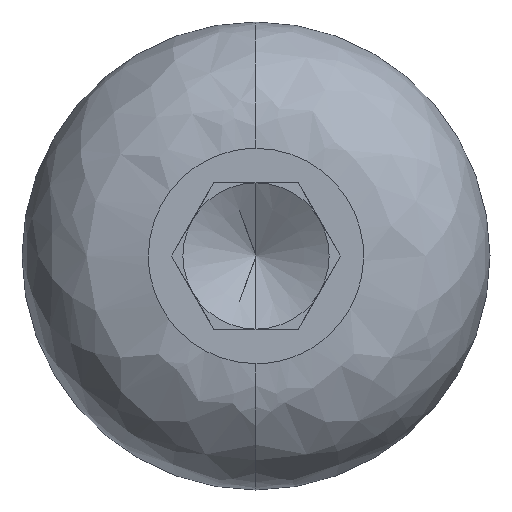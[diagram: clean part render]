
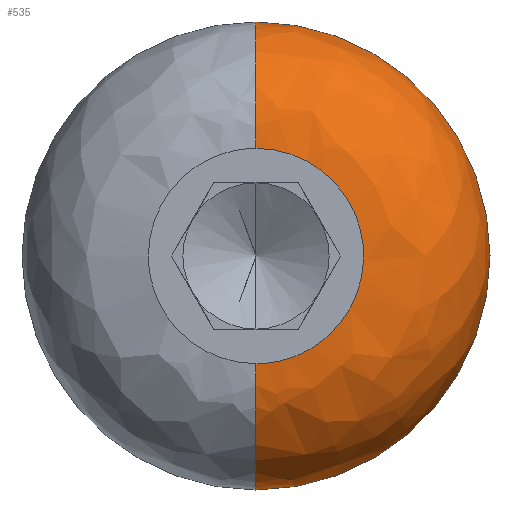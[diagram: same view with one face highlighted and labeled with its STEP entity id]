
A CAD part, left-side view. The second image highlights one B-rep face of the part: STEP entity #535.
In plain terms, the highlighted free-form (B-spline) face has degree [3, 3] with [4, 4] control points.
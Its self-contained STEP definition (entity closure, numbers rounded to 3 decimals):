
#36 = CIRCLE ( 'NONE', #135, 4.32 ) ;
#37 = CARTESIAN_POINT ( 'NONE',  ( 0., 0., -3.68 ) ) ;
#62 = CIRCLE ( 'NONE', #147, 4.32 ) ;
#81 =( BOUNDED_SURFACE ( )  B_SPLINE_SURFACE ( 3, 3, ( 
 ( #329, #355, #325, #313 ),
 ( #311, #306, #303, #301 ),
 ( #298, #290, #285, #275 ),
 ( #268, #266, #264, #260 ) ),
 .UNSPECIFIED., .F., .F., .F. ) 
 B_SPLINE_SURFACE_WITH_KNOTS ( ( 4, 4 ),
 ( 4, 4 ),
 ( 0., 1. ),
 ( 0., 1. ),
 .UNSPECIFIED. ) 
 GEOMETRIC_REPRESENTATION_ITEM ( )  RATIONAL_B_SPLINE_SURFACE ( (
 ( 1., 0.333, 0.333, 1.),
 ( 0.805, 0.268, 0.268, 0.805),
 ( 0.805, 0.268, 0.268, 0.805),
 ( 1., 0.333, 0.333, 1.) ) ) 
 REPRESENTATION_ITEM ( '' )  SURFACE ( )  );
#133 = DIRECTION ( 'NONE',  ( 1., 0., 0. ) ) ;
#135 = AXIS2_PLACEMENT_3D ( 'NONE', #241, #232, #229 ) ;
#144 = CARTESIAN_POINT ( 'NONE',  ( 0., 0., -3.68 ) ) ;
#147 = AXIS2_PLACEMENT_3D ( 'NONE', #371, #357, #364 ) ;
#149 = CARTESIAN_POINT ( 'NONE',  ( 0., 0., 3.68 ) ) ;
#152 = CARTESIAN_POINT ( 'NONE',  ( 0., -7.36, -3.68 ) ) ;
#172 = CARTESIAN_POINT ( 'NONE',  ( 0., -7.36, 3.68 ) ) ;
#183 = CIRCLE ( 'NONE', #400, 8. ) ;
#216 = CARTESIAN_POINT ( 'NONE',  ( 0., 0., 3.68 ) ) ;
#220 = ORIENTED_EDGE ( 'NONE', *, *, #574, .T. ) ;
#221 = ORIENTED_EDGE ( 'NONE', *, *, #780, .F. ) ;
#229 = DIRECTION ( 'NONE',  ( 0., 0., -1. ) ) ;
#232 = DIRECTION ( 'NONE',  ( 0., -1., 0. ) ) ;
#238 = ORIENTED_EDGE ( 'NONE', *, *, #312, .F. ) ;
#239 = EDGE_LOOP ( 'NONE', ( #220, #560, #221, #238 ) ) ;
#241 = CARTESIAN_POINT ( 'NONE',  ( 4.32, 0., -3.68 ) ) ;
#260 = CARTESIAN_POINT ( 'NONE',  ( 4.32, 0., 8. ) ) ;
#264 = CARTESIAN_POINT ( 'NONE',  ( 4.32, -16., 8. ) ) ;
#266 = CARTESIAN_POINT ( 'NONE',  ( 4.32, -16., -8. ) ) ;
#268 = CARTESIAN_POINT ( 'NONE',  ( 4.32, 0., -8. ) ) ;
#272 = VERTEX_POINT ( 'NONE', #554 ) ;
#275 = CARTESIAN_POINT ( 'NONE',  ( 1.789, 0., 8. ) ) ;
#285 = CARTESIAN_POINT ( 'NONE',  ( 1.789, -16., 8. ) ) ;
#290 = CARTESIAN_POINT ( 'NONE',  ( 1.789, -16., -8. ) ) ;
#298 = CARTESIAN_POINT ( 'NONE',  ( 1.789, 0., -8. ) ) ;
#301 = CARTESIAN_POINT ( 'NONE',  ( 0., 0., 6.211 ) ) ;
#303 = CARTESIAN_POINT ( 'NONE',  ( 0., -12.421, 6.211 ) ) ;
#306 = CARTESIAN_POINT ( 'NONE',  ( 0., -12.421, -6.211 ) ) ;
#311 = CARTESIAN_POINT ( 'NONE',  ( 0., 0., -6.211 ) ) ;
#312 = EDGE_CURVE ( 'NONE', #350, #272, #62, .T. ) ;
#313 = CARTESIAN_POINT ( 'NONE',  ( 0., 0., 3.68 ) ) ;
#325 = CARTESIAN_POINT ( 'NONE',  ( 0., -7.36, 3.68 ) ) ;
#327 = EDGE_CURVE ( 'NONE', #585, #394, #36, .T. ) ;
#329 = CARTESIAN_POINT ( 'NONE',  ( 0., 0., -3.68 ) ) ;
#350 = VERTEX_POINT ( 'NONE', #149 ) ;
#355 = CARTESIAN_POINT ( 'NONE',  ( 0., -7.36, -3.68 ) ) ;
#357 = DIRECTION ( 'NONE',  ( 0., 1., 0. ) ) ;
#364 = DIRECTION ( 'NONE',  ( 0., 0., 1. ) ) ;
#371 = CARTESIAN_POINT ( 'NONE',  ( 4.32, 0., 3.68 ) ) ;
#394 = VERTEX_POINT ( 'NONE', #761 ) ;
#400 = AXIS2_PLACEMENT_3D ( 'NONE', #495, #133, #561 ) ;
#433 =( BOUNDED_CURVE ( )  B_SPLINE_CURVE ( 3, ( #216, #172, #152, #144 ),
 .UNSPECIFIED., .F., .F. ) 
 B_SPLINE_CURVE_WITH_KNOTS ( ( 4, 4 ),
 ( 0., 1. ),
 .UNSPECIFIED. ) 
 CURVE ( )  GEOMETRIC_REPRESENTATION_ITEM ( )  RATIONAL_B_SPLINE_CURVE ( ( 1., 0.333, 0.333, 1. ) ) 
 REPRESENTATION_ITEM ( '' )  );
#495 = CARTESIAN_POINT ( 'NONE',  ( 4.32, 0., 0. ) ) ;
#535 = ADVANCED_FACE ( 'NONE', ( #678 ), #81, .T. ) ;
#554 = CARTESIAN_POINT ( 'NONE',  ( 4.32, 0., 8. ) ) ;
#560 = ORIENTED_EDGE ( 'NONE', *, *, #327, .T. ) ;
#561 = DIRECTION ( 'NONE',  ( 0., 0., 1. ) ) ;
#574 = EDGE_CURVE ( 'NONE', #350, #585, #433, .T. ) ;
#585 = VERTEX_POINT ( 'NONE', #37 ) ;
#678 = FACE_OUTER_BOUND ( 'NONE', #239, .T. ) ;
#761 = CARTESIAN_POINT ( 'NONE',  ( 4.32, 0., -8. ) ) ;
#780 = EDGE_CURVE ( 'NONE', #272, #394, #183, .T. ) ;
